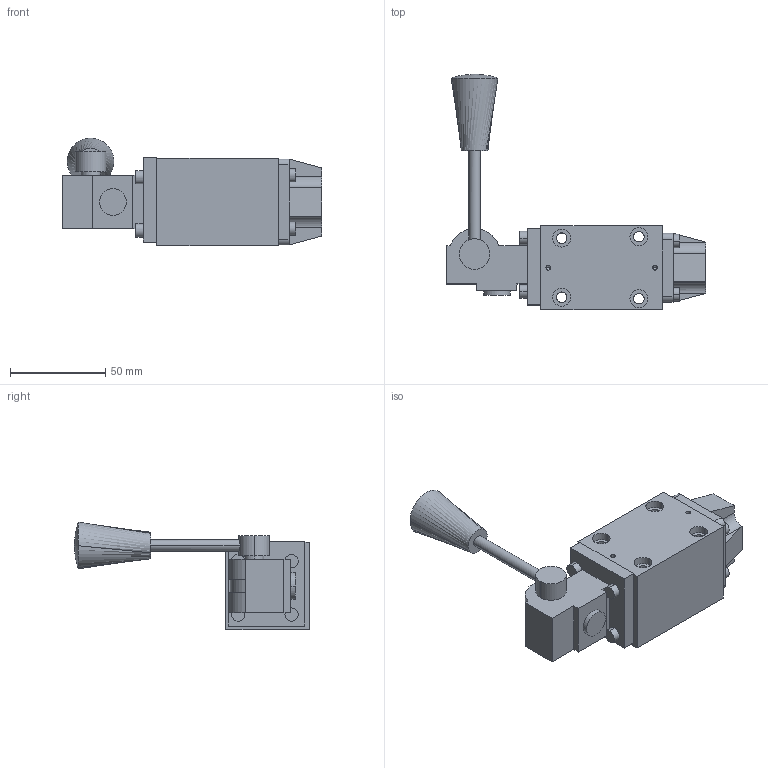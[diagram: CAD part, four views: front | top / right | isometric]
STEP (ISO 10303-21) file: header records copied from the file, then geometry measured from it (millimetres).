
FILE_DESCRIPTION (( 'STEP AP203' ), '1' );
FILE_NAME ('FS-02儂迮葩弇忒雄概.STEP', '2020-11-12T04:48:36', ( 'chen' ), ( '' ), 'SwSTEP 2.0', 'SolidWorks 2018', '' );
FILE_SCHEMA (( 'CONFIG_CONTROL_DESIGN' ));
Length unit declared in the file: millimetre
Products named in the file (1): FS-02儂迮葩弇忒雄概
Bounding box: 136 x 123.5 x 56.5 mm (x, y, z)
Volume: 205983.4 mm3; surface area: 34004.4 mm2
Topology: 1 solids, 1 shells, 176 faces, 416 edges, 271 vertices
Faces by surface type: plane 97, cylinder 71, cone 4, sphere 2, bspline 2
Entity records: 5225 total; most frequent: CARTESIAN_POINT 964, DIRECTION 902, ORIENTED_EDGE 824, EDGE_CURVE 412, AXIS2_PLACEMENT_3D 323, VERTEX_POINT 271, VECTOR 256, LINE 256
